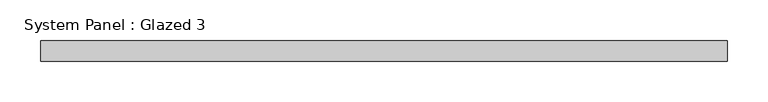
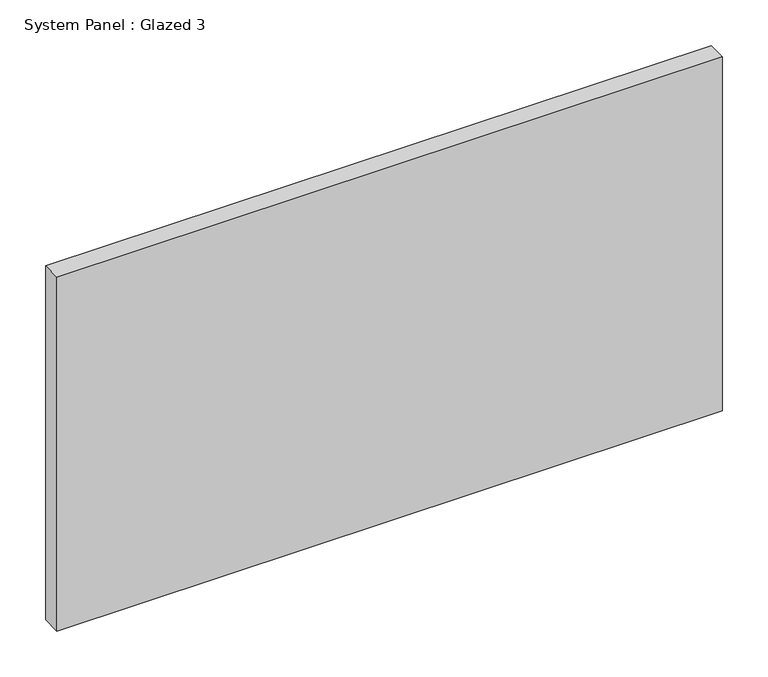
"""IFC4 building model written with IfcOpenShell, lengths in millimetres: plate geometry, System Panel : Glazed 3."""

from ifc_helpers import new_model, si_unit, origin, origin_with_axes, place, context, project, spatial, polyline, outline, extrude, source, transform, mapped, element, save


def system_panel_glazed_3_bc7211fb(model_context):
    return source(origin(), model_context, "Body", "SweptSolid", [
        extrude(outline(polyline([(421.6666667, -12.5), (-421.6666667, -12.5), (-421.6666667, 12.5), (421.6666667, 12.5), (421.6666667, -12.5)])), origin_with_axes(), (0.0, 0.0, 1.0), 474.0),
    ])


if __name__ == "__main__":
    model = new_model("IFC4")
    model_context = context("Model", 3, world=origin())
    ifc_project = project(units=[si_unit("LENGTHUNIT", "METRE", prefix="MILLI")], contexts=[model_context])
    site = spatial("IfcSite", under=ifc_project)
    building = spatial("IfcBuilding", under=site)
    placement = place(None, origin())
    system_panel_glazed_3_shape = system_panel_glazed_3_bc7211fb(model_context)
    element("IfcPlate", 1, ObjectType="System Panel : Glazed 3", at=placement, inside=building, context=model_context, shape_type="MappedRepresentation", body=[
        mapped(system_panel_glazed_3_shape, transform((0.0, 0.0, 0.0), x_axis=(1.0, 0.0, 0.0), y_axis=(0.0, 1.0, 0.0), z_axis=(0.0, 0.0, 1.0))),
    ])
    save(model, "model.ifc")
